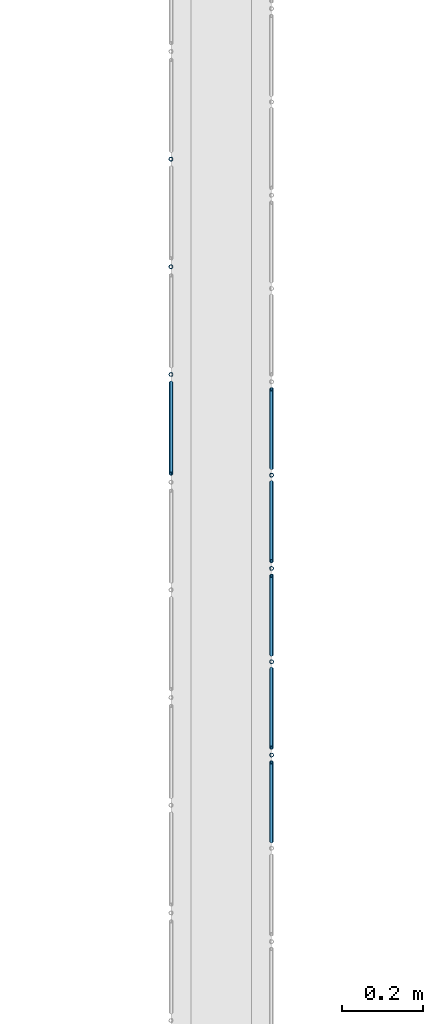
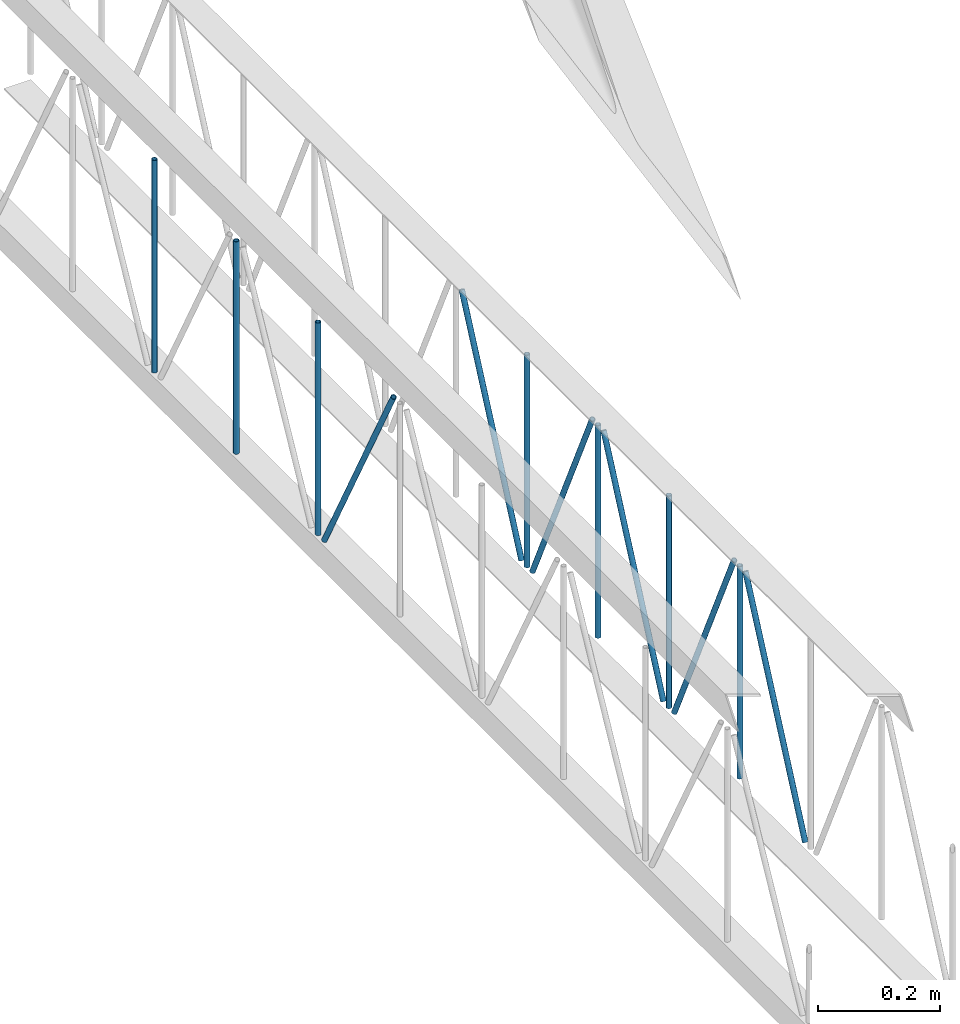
# One storey, part 36 of 153: 13 members, 2 elements without a shape of their own.
"""IFC4 building model written with IfcOpenShell, lengths in metres."""

from ifc_helpers import new_model, entity, si_unit, converted_unit, derived_unit, direction, frame, origin, place, context, subcontext, project, spatial, arc, indexed_curve, outline, extrude, source, transform, mapped, material, type_object, type_shapes, element, aggregate, save


model = new_model("IFC4")

# Units and contexts
model_context = context("Model", 3, precision=1e-05, world=origin(), true_north=direction((6.123031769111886e-17, 1.0)))
body_context = subcontext(model_context, "Body", "Model", "MODEL_VIEW")
ifc_project = project(units=[si_unit("LENGTHUNIT", "METRE"), si_unit("AREAUNIT", "SQUARE_METRE"), si_unit("VOLUMEUNIT", "CUBIC_METRE"), converted_unit("PLANEANGLEUNIT", "DEGREE", entity("IfcRatioMeasure", 0.017453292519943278), si_unit("PLANEANGLEUNIT", "RADIAN"), dimensions=[0, 0, 0, 0, 0, 0, 0]), si_unit("MASSUNIT", "GRAM", prefix="KILO"), derived_unit("MASSDENSITYUNIT", [(si_unit("MASSUNIT", "GRAM", prefix="KILO"), 1), (si_unit("LENGTHUNIT", "METRE"), -3)]), derived_unit("MOMENTOFINERTIAUNIT", [(si_unit("LENGTHUNIT", "METRE"), 4)]), si_unit("TIMEUNIT", "SECOND"), si_unit("FREQUENCYUNIT", "HERTZ"), si_unit("THERMODYNAMICTEMPERATUREUNIT", "DEGREE_CELSIUS"), derived_unit("THERMALTRANSMITTANCEUNIT", [(si_unit("MASSUNIT", "GRAM", prefix="KILO"), 1), (si_unit("THERMODYNAMICTEMPERATUREUNIT", "KELVIN"), -1), (si_unit("TIMEUNIT", "SECOND"), -3)]), derived_unit("VOLUMETRICFLOWRATEUNIT", [(si_unit("LENGTHUNIT", "METRE"), 3), (si_unit("TIMEUNIT", "SECOND"), -1)]), derived_unit("MASSFLOWRATEUNIT", [(si_unit("MASSUNIT", "GRAM", prefix="KILO"), 1), (si_unit("TIMEUNIT", "SECOND"), -1)]), derived_unit("ROTATIONALFREQUENCYUNIT", [(si_unit("TIMEUNIT", "SECOND"), -1)]), si_unit("ELECTRICCURRENTUNIT", "AMPERE"), si_unit("ELECTRICVOLTAGEUNIT", "VOLT"), si_unit("POWERUNIT", "WATT"), si_unit("FORCEUNIT", "NEWTON", prefix="KILO"), si_unit("ILLUMINANCEUNIT", "LUX"), si_unit("LUMINOUSFLUXUNIT", "LUMEN"), si_unit("LUMINOUSINTENSITYUNIT", "CANDELA"), derived_unit("USERDEFINED", [(si_unit("MASSUNIT", "GRAM", prefix="KILO"), -1), (si_unit("LENGTHUNIT", "METRE"), -2), (si_unit("TIMEUNIT", "SECOND"), 3), (si_unit("LUMINOUSFLUXUNIT", "LUMEN"), 1)]), derived_unit("SOUNDPOWERUNIT", [(si_unit("MASSUNIT", "GRAM", prefix="KILO"), 1), (si_unit("LENGTHUNIT", "METRE"), 2), (si_unit("TIMEUNIT", "SECOND"), -3)]), derived_unit("SOUNDPRESSUREUNIT", [(si_unit("MASSUNIT", "GRAM", prefix="KILO"), 1), (si_unit("LENGTHUNIT", "METRE"), -1), (si_unit("TIMEUNIT", "SECOND"), -2)]), derived_unit("LINEARVELOCITYUNIT", [(si_unit("LENGTHUNIT", "METRE"), 1), (si_unit("TIMEUNIT", "SECOND"), -1)]), si_unit("PRESSUREUNIT", "PASCAL"), derived_unit("USERDEFINED", [(si_unit("LENGTHUNIT", "METRE"), -2), (si_unit("MASSUNIT", "GRAM", prefix="KILO"), 1), (si_unit("TIMEUNIT", "SECOND"), -2)]), derived_unit("LINEARFORCEUNIT", [(si_unit("MASSUNIT", "GRAM", prefix="KILO"), 1), (si_unit("LENGTHUNIT", "METRE"), 1), (si_unit("TIMEUNIT", "SECOND"), -2), (si_unit("LENGTHUNIT", "METRE"), -1)]), derived_unit("PLANARFORCEUNIT", [(si_unit("MASSUNIT", "GRAM", prefix="KILO"), 1), (si_unit("LENGTHUNIT", "METRE"), 1), (si_unit("TIMEUNIT", "SECOND"), -2), (si_unit("LENGTHUNIT", "METRE"), -2)])], contexts=[model_context])

# Site, building, storey
site_placement = place(None, origin())
site = spatial("IfcSite", under=ifc_project, at=site_placement, Name="Superficie", CompositionType="ELEMENT")
building_placement = place(site_placement, origin())
building = spatial("IfcBuilding", under=site, at=building_placement, CompositionType="ELEMENT")
storey_placement = place(building_placement, frame((0.0, 0.0, 3.5999999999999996)))
storey = spatial("IfcBuildingStorey", under=building, at=storey_placement, Name="Nivel 1", CompositionType="ELEMENT", Elevation=3.5999999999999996)

# Assembly, members
assembly_1_placement = place(storey_placement, origin())
assembly_1 = element("IfcElementAssembly", 1, at=assembly_1_placement, inside=storey, Name="Viga de celosia 13:Viga de celosia 13", ObjectType="Viga de celosia 13:Viga de celosia 13", AssemblyPlace="NOTDEFINED", PredefinedType="TRUSS")
ifc_material = material(Name="Metal - Calibre delgado", Category="Metal")
member_type_1 = type_object("IfcMemberType", Name="HSS-Tubo estructural redondo:HSS 0.01", PredefinedType="BRACE", material=ifc_material)
shared_shape_1 = source(origin(), body_context, "Body", "SweptSolid", [
    extrude(outline(indexed_curve([(-0.005000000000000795, 7.502054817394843e-18), (-9.800269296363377e-18, -0.005000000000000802), (0.005000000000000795, -7.502054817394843e-18), (8.07772287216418e-18, 0.005000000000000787)], segments=[arc(1, 2, 3), arc(3, 4, 1)], self_intersect=False), holes=[indexed_curve([(0.003999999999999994, 7.222511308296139e-17), (6.910645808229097e-17, -0.004000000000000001), (-0.003999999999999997, -1.8650054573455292e-17), (-2.9156497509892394e-17, 0.003999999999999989)], segments=[arc(1, 2, 3), arc(3, 4, 1)], self_intersect=False)]), frame((-0.21200000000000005, 0.0, 0.0), z_axis=(1.0, 0.0, 0.0), x_axis=(0.0, 1.0, 0.0)), (0.0, 0.0, 1.0), 0.4240000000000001),
])
type_shapes(member_type_1, [shared_shape_1])
member_1_placement = place(assembly_1_placement, frame((-8.86320098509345, -11.071002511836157, 0.24999999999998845), z_axis=(0.0, 1.0, 0.0), x_axis=(0.0, 0.0, 1.0)))
member_1 = element("IfcMember", 2, at=member_1_placement, type_object=member_type_1, material=ifc_material, Name="HSS-Tubo estructural redondo:HSS 0.01", ObjectType="HSS-Tubo estructural redondo:HSS 0.01", PredefinedType="BRACE", context=body_context, shape_type="MappedRepresentation", body=[
    mapped(shared_shape_1, transform((0.0, 0.0, 0.0), scale=1.0)),
])
member_2_placement = place(assembly_1_placement, frame((-8.863200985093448, -10.803502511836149, 0.25), z_axis=(0.0, 1.0, 0.0), x_axis=(0.0, 0.0, 1.0)))
member_2 = element("IfcMember", 3, at=member_2_placement, type_object=member_type_1, material=ifc_material, Name="HSS-Tubo estructural redondo:HSS 0.01", ObjectType="HSS-Tubo estructural redondo:HSS 0.01", PredefinedType="BRACE", context=body_context, shape_type="MappedRepresentation", body=[
    mapped(shared_shape_1, transform((0.0, 0.0, 0.0), scale=1.0)),
])
member_3_placement = place(assembly_1_placement, frame((-8.863200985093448, -10.536002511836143, 0.25), z_axis=(0.0, 1.0, 0.0), x_axis=(0.0, 0.0, 1.0)))
member_3 = element("IfcMember", 4, at=member_3_placement, type_object=member_type_1, material=ifc_material, Name="HSS-Tubo estructural redondo:HSS 0.01", ObjectType="HSS-Tubo estructural redondo:HSS 0.01", PredefinedType="BRACE", context=body_context, shape_type="MappedRepresentation", body=[
    mapped(shared_shape_1, transform((0.0, 0.0, 0.0), scale=1.0)),
])

assembly_2_placement = place(storey_placement, origin())
assembly_2 = element("IfcElementAssembly", 5, at=assembly_2_placement, inside=storey, Name="Viga de celosia 13:Viga de celosia 13", ObjectType="Viga de celosia 13:Viga de celosia 13", AssemblyPlace="NOTDEFINED", PredefinedType="TRUSS")
member_type_2 = type_object("IfcMemberType", Name="HSS-Tubo estructural redondo:HSS 0.01", PredefinedType="BRACE", material=ifc_material)
shared_shape_2 = source(origin(), body_context, "Body", "SweptSolid", [
    extrude(outline(indexed_curve([(-0.005000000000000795, 2.0824731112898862e-17), (-2.3122945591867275e-17, -0.005000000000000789), (0.005000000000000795, -2.08247311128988e-17), (2.14003991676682e-17, 0.005000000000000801)], segments=[arc(1, 2, 3), arc(3, 4, 1)], self_intersect=False), holes=[indexed_curve([(0.003999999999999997, -1.3094283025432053e-17), (-1.531427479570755e-18, -0.003999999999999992), (-0.004, 4.0098531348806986e-17), (4.1481388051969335e-17, 0.0039999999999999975)], segments=[arc(1, 2, 3), arc(3, 4, 1)], self_intersect=False)]), frame((-0.21200000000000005, 0.0, 0.0), z_axis=(1.0, 0.0, 0.0), x_axis=(0.0, -1.0, 0.0)), (0.0, 0.0, 1.0), 0.4240000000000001),
])
type_shapes(member_type_2, [shared_shape_2])
member_4_placement = place(assembly_2_placement, frame((-8.613200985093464, -12.016359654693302, 0.25), z_axis=(0.0, 1.0, 0.0), x_axis=(0.0, 0.0, 1.0)))
member_4 = element("IfcMember", 6, at=member_4_placement, type_object=member_type_2, material=ifc_material, Name="HSS-Tubo estructural redondo:HSS 0.01", ObjectType="HSS-Tubo estructural redondo:HSS 0.01", PredefinedType="BRACE", context=body_context, shape_type="MappedRepresentation", body=[
    mapped(shared_shape_2, transform((0.0, 0.0, 0.0), scale=1.0)),
])
member_5_placement = place(assembly_2_placement, frame((-8.613200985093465, -11.78457394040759, 0.25), z_axis=(0.0, 1.0, 0.0), x_axis=(0.0, 0.0, 1.0)))
member_5 = element("IfcMember", 7, at=member_5_placement, type_object=member_type_2, material=ifc_material, Name="HSS-Tubo estructural redondo:HSS 0.01", ObjectType="HSS-Tubo estructural redondo:HSS 0.01", PredefinedType="BRACE", context=body_context, shape_type="MappedRepresentation", body=[
    mapped(shared_shape_2, transform((0.0, 0.0, 0.0), scale=1.0)),
])
member_6_placement = place(assembly_2_placement, frame((-8.613200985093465, -11.55278822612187, 0.25), z_axis=(0.0, 1.0, 0.0), x_axis=(0.0, 0.0, 1.0)))
member_6 = element("IfcMember", 8, at=member_6_placement, type_object=member_type_2, material=ifc_material, Name="HSS-Tubo estructural redondo:HSS 0.01", ObjectType="HSS-Tubo estructural redondo:HSS 0.01", PredefinedType="BRACE", context=body_context, shape_type="MappedRepresentation", body=[
    mapped(shared_shape_2, transform((0.0, 0.0, 0.0), scale=1.0)),
])
member_7_placement = place(assembly_2_placement, frame((-8.613200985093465, -11.321002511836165, 0.24999999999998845), z_axis=(0.0, 1.0, 0.0), x_axis=(0.0, 0.0, 1.0)))
member_7 = element("IfcMember", 9, at=member_7_placement, type_object=member_type_2, material=ifc_material, Name="HSS-Tubo estructural redondo:HSS 0.01", ObjectType="HSS-Tubo estructural redondo:HSS 0.01", PredefinedType="BRACE", context=body_context, shape_type="MappedRepresentation", body=[
    mapped(shared_shape_2, transform((0.0, 0.0, 0.0), scale=1.0)),
])

# Member
member_type_3 = type_object("IfcMemberType", Name="HSS-Tubo estructural redondo:HSS 0.01", PredefinedType="BRACE", material=ifc_material)
shared_shape_3 = source(origin(), body_context, "Body", "SweptSolid", [
    extrude(outline(indexed_curve([(-0.005000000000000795, 7.502054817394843e-18), (-9.800269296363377e-18, -0.005000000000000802), (0.005000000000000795, -7.502054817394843e-18), (8.07772287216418e-18, 0.005000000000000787)], segments=[arc(1, 2, 3), arc(3, 4, 1)], self_intersect=False), holes=[indexed_curve([(0.003999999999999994, 7.222511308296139e-17), (6.910645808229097e-17, -0.004000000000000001), (-0.003999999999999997, -1.8650054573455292e-17), (-2.9156497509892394e-17, 0.003999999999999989)], segments=[arc(1, 2, 3), arc(3, 4, 1)], self_intersect=False)]), frame((-0.23950000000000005, 0.0, 0.0), z_axis=(1.0, 0.0, 0.0), x_axis=(0.0, 1.0, 0.0)), (0.0, 0.0, 1.0), 0.4790000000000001),
])
type_shapes(member_type_3, [shared_shape_3])
member_8_placement = place(assembly_1_placement, frame((-8.86320098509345, -11.204752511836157, 0.2500000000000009), z_axis=(0.0, -0.8817419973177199, -0.47173196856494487), x_axis=(0.0, 0.47173196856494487, -0.8817419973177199)))
member_8 = element("IfcMember", 10, at=member_8_placement, type_object=member_type_3, material=ifc_material, Name="HSS-Tubo estructural redondo:HSS 0.01", ObjectType="HSS-Tubo estructural redondo:HSS 0.01", PredefinedType="BRACE", context=body_context, shape_type="MappedRepresentation", body=[
    mapped(shared_shape_3, transform((0.0, 0.0, 0.0), scale=1.0)),
])

aggregate(assembly_1, [member_1, member_2, member_3, member_8])

member_type_4 = type_object("IfcMemberType", Name="HSS-Tubo estructural redondo:HSS 0.01", PredefinedType="BRACE", material=ifc_material)
shared_shape_4 = source(origin(), body_context, "Body", "SweptSolid", [
    extrude(outline(indexed_curve([(-0.005000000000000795, 2.0824731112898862e-17), (-2.3122945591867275e-17, -0.005000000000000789), (0.005000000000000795, -2.08247311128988e-17), (2.14003991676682e-17, 0.005000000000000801)], segments=[arc(1, 2, 3), arc(3, 4, 1)], self_intersect=False), holes=[indexed_curve([(0.003999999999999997, -1.3094283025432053e-17), (-1.531427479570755e-18, -0.003999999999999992), (-0.004, 4.0098531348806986e-17), (4.1481388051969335e-17, 0.0039999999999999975)], segments=[arc(1, 2, 3), arc(3, 4, 1)], self_intersect=False)]), frame((-0.2325, 0.0, 0.0), z_axis=(1.0, 0.0, 0.0), x_axis=(0.0, -1.0, 0.0)), (0.0, 0.0, 1.0), 0.465),
])
type_shapes(member_type_4, [shared_shape_4])
member_9_placement = place(assembly_2_placement, frame((-8.613200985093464, -12.132252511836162, 0.25), z_axis=(0.0, 0.9072563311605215, -0.4205781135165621), x_axis=(0.0, 0.4205781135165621, 0.9072563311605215)))
member_9 = element("IfcMember", 11, at=member_9_placement, type_object=member_type_4, material=ifc_material, Name="HSS-Tubo estructural redondo:HSS 0.01", ObjectType="HSS-Tubo estructural redondo:HSS 0.01", PredefinedType="BRACE", context=body_context, shape_type="MappedRepresentation", body=[
    mapped(shared_shape_4, transform((0.0, 0.0, 0.0), scale=1.0)),
])

member_10_placement = place(assembly_2_placement, frame((-8.613200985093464, -11.900466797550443, 0.25), z_axis=(0.0, -0.907256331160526, -0.4205781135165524), x_axis=(0.0, 0.4205781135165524, -0.907256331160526)))
member_10 = element("IfcMember", 12, at=member_10_placement, type_object=member_type_4, material=ifc_material, Name="HSS-Tubo estructural redondo:HSS 0.01", ObjectType="HSS-Tubo estructural redondo:HSS 0.01", PredefinedType="BRACE", context=body_context, shape_type="MappedRepresentation", body=[
    mapped(shared_shape_4, transform((0.0, 0.0, 0.0), scale=1.0)),
])

member_11_placement = place(assembly_2_placement, frame((-8.613200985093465, -11.66868108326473, 0.2500000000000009), z_axis=(0.0, 0.90725633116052, -0.4205781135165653), x_axis=(0.0, 0.4205781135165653, 0.90725633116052)))
member_11 = element("IfcMember", 13, at=member_11_placement, type_object=member_type_4, material=ifc_material, Name="HSS-Tubo estructural redondo:HSS 0.01", ObjectType="HSS-Tubo estructural redondo:HSS 0.01", PredefinedType="BRACE", context=body_context, shape_type="MappedRepresentation", body=[
    mapped(shared_shape_4, transform((0.0, 0.0, 0.0), scale=1.0)),
])

member_12_placement = place(assembly_2_placement, frame((-8.613200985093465, -11.436895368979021, 0.25), z_axis=(0.0, -0.9072563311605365, -0.4205781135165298), x_axis=(0.0, 0.4205781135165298, -0.9072563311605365)))
member_12 = element("IfcMember", 14, at=member_12_placement, type_object=member_type_4, material=ifc_material, Name="HSS-Tubo estructural redondo:HSS 0.01", ObjectType="HSS-Tubo estructural redondo:HSS 0.01", PredefinedType="BRACE", context=body_context, shape_type="MappedRepresentation", body=[
    mapped(shared_shape_4, transform((0.0, 0.0, 0.0), scale=1.0)),
])

member_13_placement = place(assembly_2_placement, frame((-8.613200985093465, -11.205109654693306, 0.2499999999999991), z_axis=(0.0, 0.907256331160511, -0.42057811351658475), x_axis=(0.0, 0.42057811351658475, 0.907256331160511)))
member_13 = element("IfcMember", 15, at=member_13_placement, type_object=member_type_4, material=ifc_material, Name="HSS-Tubo estructural redondo:HSS 0.01", ObjectType="HSS-Tubo estructural redondo:HSS 0.01", PredefinedType="BRACE", context=body_context, shape_type="MappedRepresentation", body=[
    mapped(shared_shape_4, transform((0.0, 0.0, 0.0), scale=1.0)),
])

aggregate(assembly_2, [member_4, member_5, member_6, member_7, member_9, member_10, member_11, member_12, member_13])

save(model, "model.ifc")
